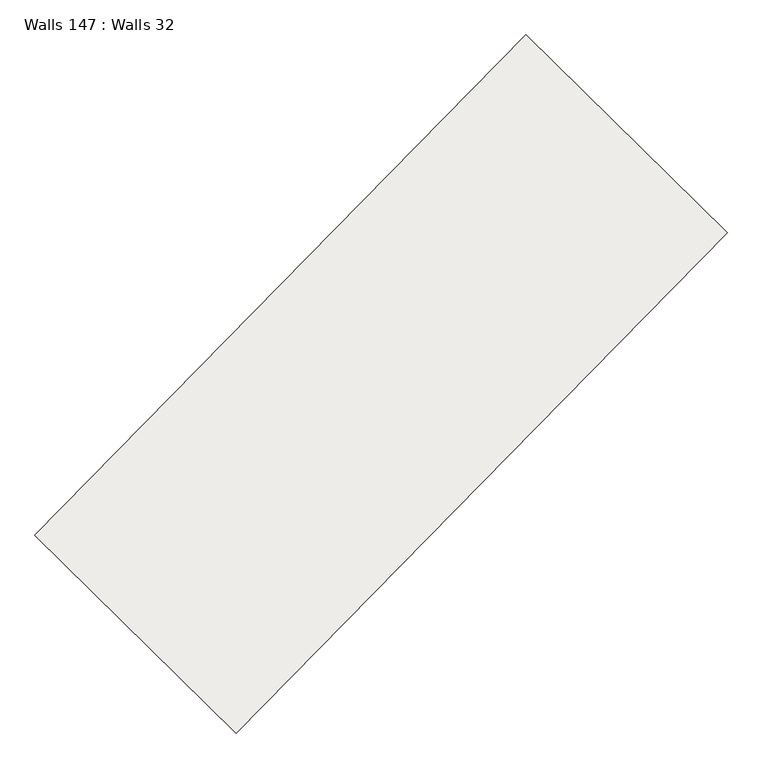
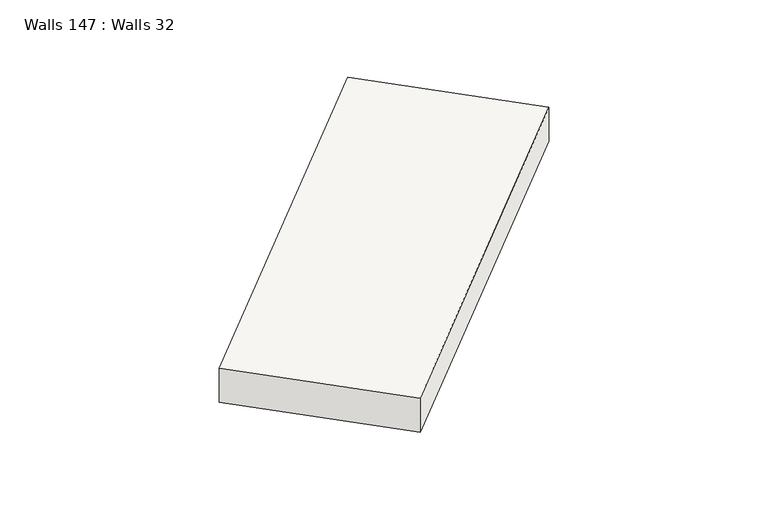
"""IFC4 building model written with IfcOpenShell, lengths in millimetres: slab geometry, Walls 147 : Walls 32."""

from ifc_helpers import new_model, si_unit, frame, origin, place, context, project, spatial, polyline, outline, extrude, source, transform, mapped, element, save


def walls_147_walls_32_a786d163(model_context):
    return source(origin(), model_context, "Body", "SweptSolid", [
        extrude(outline(polyline([(-350.0, 0.0), (350.0, 0.0), (260.0, -8699.999999), (-440.0, -8699.999999), (-350.0, 0.0)])), frame((-188924.0975768, -351718.2678903, 635700.0), z_axis=(-0.7136987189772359, 0.7004528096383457, 0.0), x_axis=(0.0, 0.0, 1.0)), (0.0, 0.0, 1.0), 3500.0),
    ])


if __name__ == "__main__":
    model = new_model("IFC4")
    model_context = context("Model", 3, world=origin())
    ifc_project = project(units=[si_unit("LENGTHUNIT", "METRE", prefix="MILLI")], contexts=[model_context])
    site = spatial("IfcSite", under=ifc_project)
    building = spatial("IfcBuilding", under=site)
    placement = place(None, origin())
    walls_147_walls_32_shape = walls_147_walls_32_a786d163(model_context)
    element("IfcSlab", 1, ObjectType="Walls 147 : Walls 32", at=placement, inside=building, context=model_context, shape_type="MappedRepresentation", body=[
        mapped(walls_147_walls_32_shape, transform((0.0, 0.0, 0.0), x_axis=(1.0, 0.0, 0.0), y_axis=(0.0, 1.0, 0.0), z_axis=(0.0, 0.0, 1.0))),
    ])
    save(model, "model.ifc")
